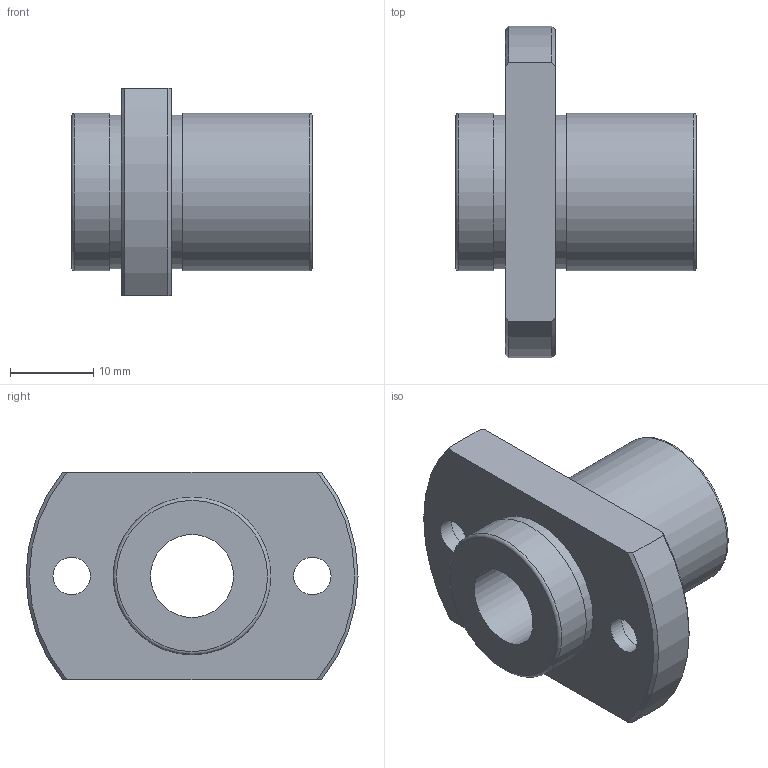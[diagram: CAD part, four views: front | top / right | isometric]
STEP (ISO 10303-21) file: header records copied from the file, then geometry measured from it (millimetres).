
FILE_DESCRIPTION(('STEP AP203'),'1');
FILE_NAME('//192.168.1.1/share/s-4 技術開発/s-4-4_CAD/s-4-4-3_見直し済み/002 修正済み/NFIO-V(済)/NFIO-V_TOP/NFIO-10VUU.step','2022-03-08T01:23:13',(' '),(' '),'Spatial InterOp 3D',' ',' ');
FILE_SCHEMA(('CONFIG_CONTROL_DESIGN'));
Length unit declared in the file: millimetre
Products named in the file (1): 1
Bounding box: 29 x 40 x 25 mm (x, y, z)
Volume: 9349.4 mm3; surface area: 4877.5 mm2
Topology: 1 solids, 1 shells, 27 faces, 59 edges, 40 vertices
Faces by surface type: cylinder 11, plane 10, cone 4, torus 2
Full cylindrical faces by diameter (mm): 4.5 x2, 7.5 x2, 10 x1, 18.5 x2, 19 x2
Entity records: 730 total; most frequent: CARTESIAN_POINT 132, DIRECTION 120, ORIENTED_EDGE 88, AXIS2_PLACEMENT_3D 56, EDGE_LOOP 50, EDGE_CURVE 44, FACE_OUTER_BOUND 38, VERTEX_POINT 36
